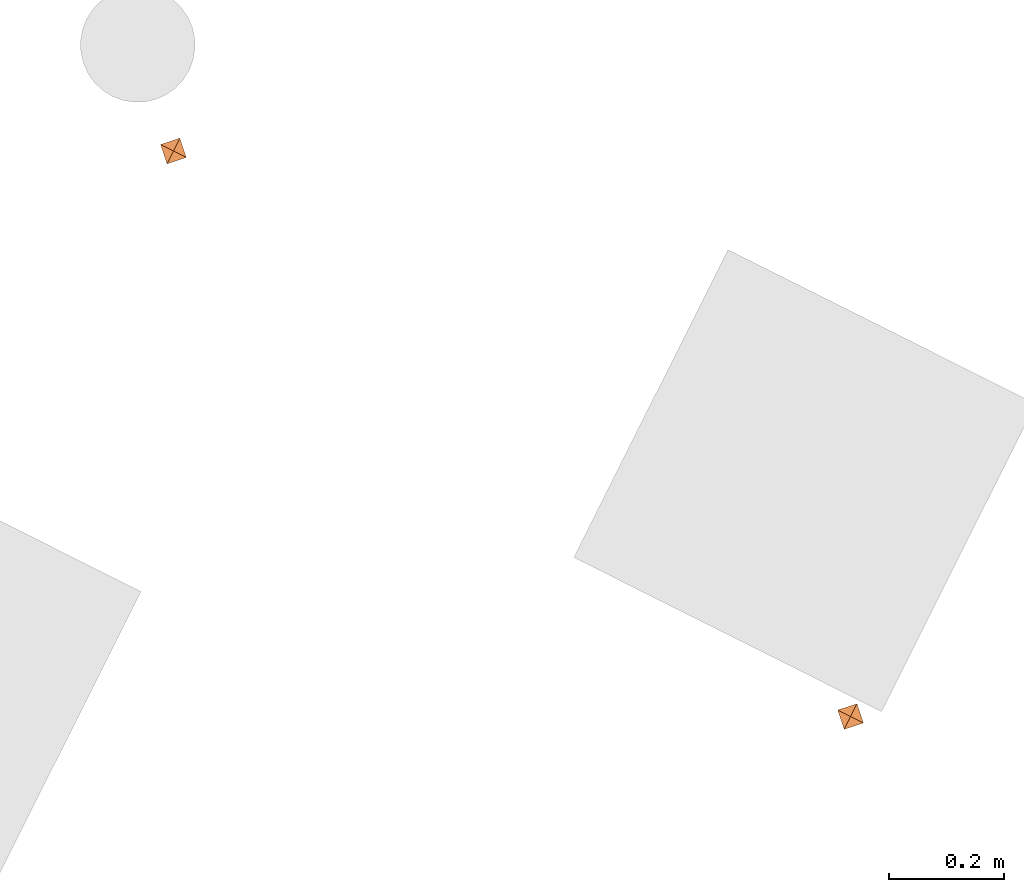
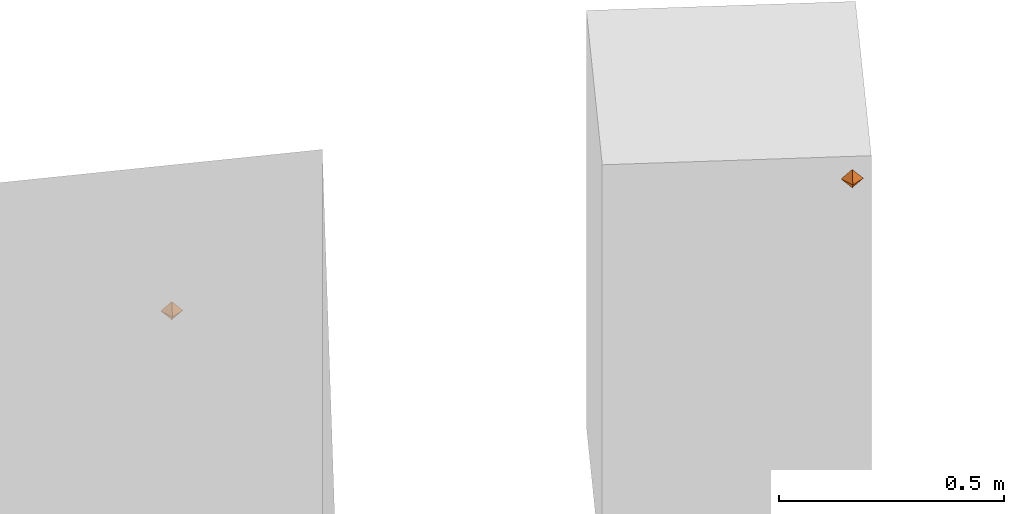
# One storey, part 152 of 152: 2 proxies.
"""IFC2X3 building model written with IfcOpenShell, lengths in metres."""

from ifc_helpers import new_model, si_unit, derived_unit, direction, frame, origin, place, context, subcontext, project, spatial, faceted_brep, type_object, element, save


model = new_model("IFC2X3")

# Units and contexts
model_context = context("Model", 3, precision=5.2338327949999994e-05, world=origin(), true_north=direction((0.0, 1.0)))
body_context = subcontext(model_context, "Body", "Model", "MODEL_VIEW")
ifc_project = project(units=[si_unit("LENGTHUNIT", "METRE"), si_unit("AREAUNIT", "SQUARE_METRE"), si_unit("VOLUMEUNIT", "CUBIC_METRE"), si_unit("MASSUNIT", "GRAM", prefix="KILO"), si_unit("PLANEANGLEUNIT", "RADIAN"), derived_unit("THERMALTRANSMITTANCEUNIT", [(si_unit("MASSUNIT", "GRAM", prefix="KILO"), 1), (si_unit("THERMODYNAMICTEMPERATUREUNIT", "KELVIN"), -1), (si_unit("TIMEUNIT", "SECOND"), -3)])], contexts=[model_context])

# Site, building, storey
site_placement = place(None, frame((0.0, 0.0, 0.0), z_axis=(0.0, 0.0, 1.0), x_axis=(0.8939966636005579, -0.4480736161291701, 0.0)))
site = spatial("IfcSite", under=ifc_project, at=site_placement, Name="Default", CompositionType="ELEMENT")
building_placement = place(site_placement, origin())
building = spatial("IfcBuilding", under=site, at=building_placement, CompositionType="ELEMENT")
storey_placement = place(building_placement, frame((0.0, 0.0, 2.7499999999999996)))
storey = spatial("IfcBuildingStorey", under=building, at=storey_placement, Name="1. Obergeschoss", CompositionType="ELEMENT", Elevation=2.7499999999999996)

# Proxies
building_element_proxy_type = type_object("IfcBuildingElementProxyType", Name="DirectShape:Gebäudeautomation", PredefinedType="NOTDEFINED")
proxy_1_placement = place(storey_placement, origin())
element("IfcBuildingElementProxy", 1, at=proxy_1_placement, inside=storey, type_object=building_element_proxy_type, Name="DirectShape:Sanitär Dosierung", context=body_context, shape_type="Brep", body=[
    faceted_brep([(1.282177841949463, 12.15346049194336, 0.723601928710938), (1.257177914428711, 12.15346049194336, 0.74860185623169), (1.282177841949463, 12.178460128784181, 0.74860185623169), (1.282177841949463, 12.128459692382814, 0.74860185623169), (1.307177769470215, 12.15346049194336, 0.74860185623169), (1.282177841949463, 12.15346049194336, 0.7736017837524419)], [[[0, 1, 2]], [[0, 3, 1]], [[0, 4, 3]], [[0, 2, 4]], [[5, 2, 1]], [[5, 1, 3]], [[5, 3, 4]], [[5, 4, 2]]]),
])
proxy_2_placement = place(storey_placement, origin())
element("IfcBuildingElementProxy", 2, at=proxy_2_placement, inside=storey, type_object=building_element_proxy_type, Name="DirectShape:Sanitär Druckerhöhungsanlage", context=body_context, shape_type="Brep", body=[
    faceted_brep([(2.778723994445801, 11.801320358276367, 1.2666908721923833), (2.753724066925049, 11.801320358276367, 1.2916907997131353), (2.778723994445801, 11.826319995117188, 1.2916907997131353), (2.778723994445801, 11.776319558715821, 1.2916907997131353), (2.803723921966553, 11.801320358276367, 1.2916907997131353), (2.778723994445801, 11.801320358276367, 1.3166907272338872)], [[[0, 1, 2]], [[0, 3, 1]], [[0, 4, 3]], [[0, 2, 4]], [[5, 2, 1]], [[5, 1, 3]], [[5, 3, 4]], [[5, 4, 2]]]),
])

save(model, "model.ifc")
